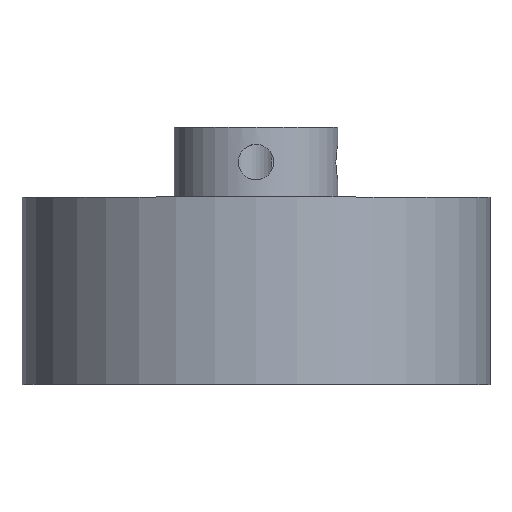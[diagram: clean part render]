
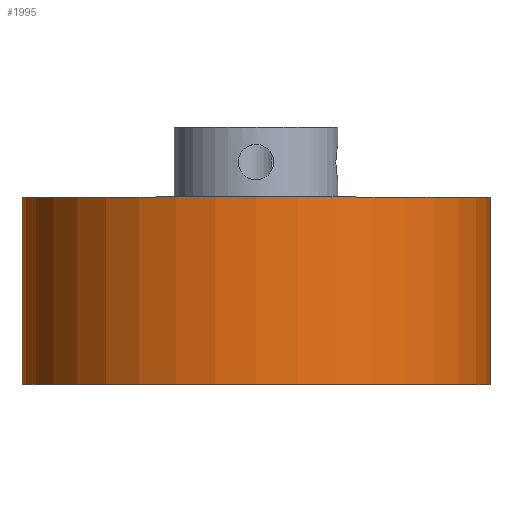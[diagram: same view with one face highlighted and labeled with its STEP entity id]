
A CAD part, top view. The second image highlights one B-rep face of the part: STEP entity #1995.
In plain terms, the highlighted cylindrical face has radius 31.75 mm (diameter 63.5 mm), a full revolution.
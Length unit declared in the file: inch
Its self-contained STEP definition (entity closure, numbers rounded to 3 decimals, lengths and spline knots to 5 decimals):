
#180=FACE_OUTER_BOUND('',#274,.T.);
#274=EDGE_LOOP('',(#1537,#1538,#1539,#1540));
#459=LINE('',#3336,#605);
#605=VECTOR('',#2786,1.25);
#724=CIRCLE('',#2225,1.25);
#725=CIRCLE('',#2226,1.25);
#900=VERTEX_POINT('',#3333);
#901=VERTEX_POINT('',#3335);
#1173=EDGE_CURVE('',#900,#900,#724,.T.);
#1174=EDGE_CURVE('',#900,#901,#459,.T.);
#1175=EDGE_CURVE('',#901,#901,#725,.T.);
#1537=ORIENTED_EDGE('',*,*,#1173,.F.);
#1538=ORIENTED_EDGE('',*,*,#1174,.T.);
#1539=ORIENTED_EDGE('',*,*,#1175,.T.);
#1540=ORIENTED_EDGE('',*,*,#1174,.F.);
#1812=CYLINDRICAL_SURFACE('',#2224,1.25);
#1995=ADVANCED_FACE('',(#180),#1812,.T.);
#2224=AXIS2_PLACEMENT_3D('',#3332,#2782,#2783);
#2225=AXIS2_PLACEMENT_3D('',#3334,#2784,#2785);
#2226=AXIS2_PLACEMENT_3D('',#3337,#2787,#2788);
#2782=DIRECTION('center_axis',(0.,1.,0.));
#2783=DIRECTION('ref_axis',(-1.,0.,0.));
#2784=DIRECTION('center_axis',(0.,1.,0.));
#2785=DIRECTION('ref_axis',(-1.,0.,0.));
#2786=DIRECTION('',(0.,-1.,0.));
#2787=DIRECTION('center_axis',(0.,1.,0.));
#2788=DIRECTION('ref_axis',(-1.,0.,0.));
#3332=CARTESIAN_POINT('Origin',(0.,0.,0.));
#3333=CARTESIAN_POINT('',(1.25,1.,0.));
#3334=CARTESIAN_POINT('Origin',(0.,1.,0.));
#3335=CARTESIAN_POINT('',(1.25,0.,0.));
#3336=CARTESIAN_POINT('',(1.25,0.,0.));
#3337=CARTESIAN_POINT('Origin',(0.,0.,0.));
